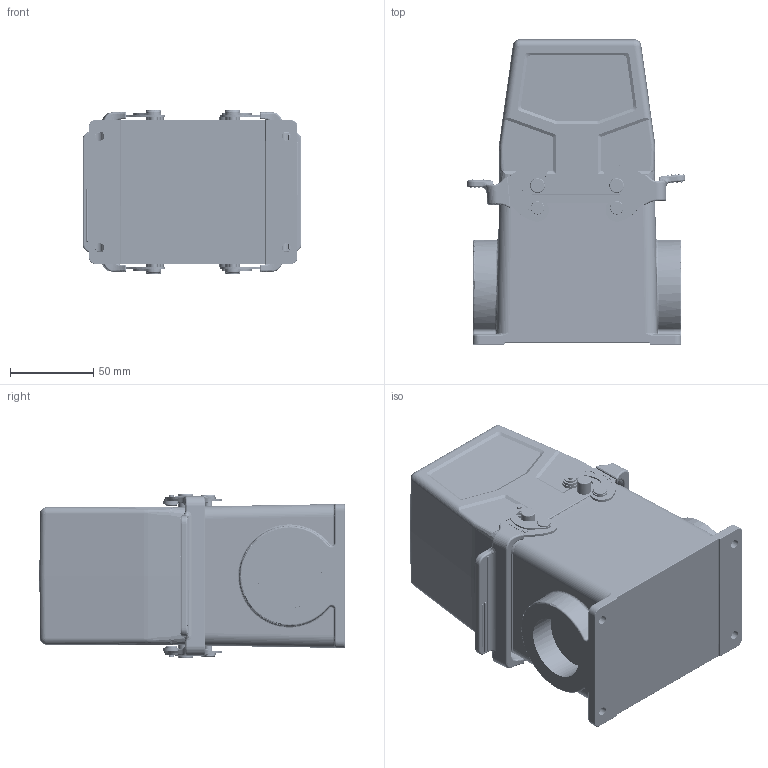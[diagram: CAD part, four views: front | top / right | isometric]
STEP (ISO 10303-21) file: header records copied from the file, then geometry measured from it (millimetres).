
FILE_DESCRIPTION (( 'STEP AP214' ), '1' );
FILE_NAME ('09032104232 HE、32针、表面底座、顶出M32套件.STEP', '2024-04-29T05:35:24', ( 'L' ), ( '' ), 'SwSTEP 2.0', 'SolidWorks 2019', '' );
FILE_SCHEMA (( 'AUTOMOTIVE_DESIGN' ));
Length unit declared in the file: millimetre
Products named in the file (7): HE-016-F.stp; H32B-SGR-M32.step; 09032104232 HE、32针、表面底座、顶出M32套件; HE-016-MD.stp; HE-016-M.stp; HE-016-FD.stp; H32B-TG-M32.step
Assembly tree (6 placements, depth 2):
  09032104232 HE、32针、表面底座、顶出M32套件
    HE-016-M.stp
    HE-016-F.stp
    HE-016-MD.stp
    HE-016-FD.stp
    H32B-TG-M32.step
    H32B-SGR-M32.step
Bounding box: 131.12 x 183.1 x 98.5 mm (x, y, z)
Volume: 641815.9 mm3; surface area: 289858.7 mm2
Topology: 6 solids, 11 shells, 12925 faces, 35870 edges, 22884 vertices
Faces by surface type: plane 6091, bspline 2497, cylinder 2241, cone 1450, torus 503, sphere 143
Entity records: 566078 total; most frequent: CARTESIAN_POINT 221458, ORIENTED_EDGE 70726, DIRECTION 52984, EDGE_CURVE 35363, VERTEX_POINT 22811, VECTOR 18130, LINE 18130, AXIS2_PLACEMENT_3D 17427
